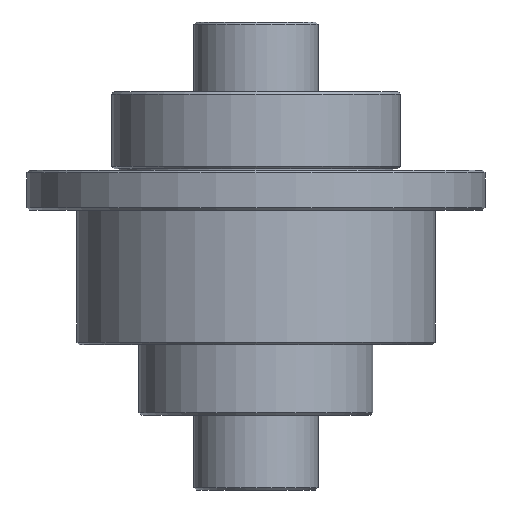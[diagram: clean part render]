
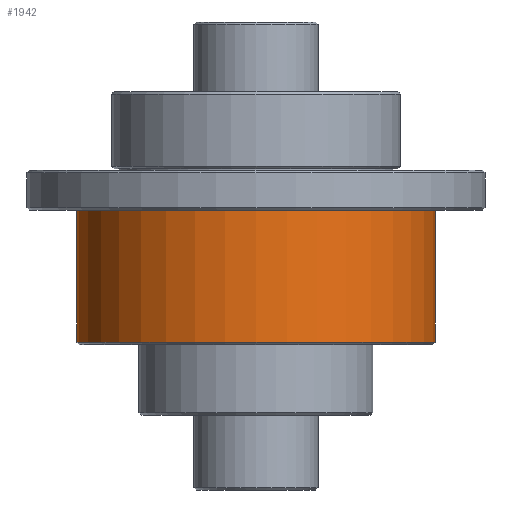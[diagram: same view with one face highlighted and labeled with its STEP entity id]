
A CAD part, front view. The second image highlights one B-rep face of the part: STEP entity #1942.
In plain terms, the highlighted cylindrical face has radius 36 mm (diameter 72 mm), a partial arc.
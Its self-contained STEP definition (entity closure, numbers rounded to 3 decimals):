
#134 = VERTEX_POINT ( 'NONE', #405 ) ;
#177 = VERTEX_POINT ( 'NONE', #1357 ) ;
#288 = DIRECTION ( 'NONE',  ( 0., 0., 1. ) ) ;
#298 = CARTESIAN_POINT ( 'NONE',  ( 0., 0., 5. ) ) ;
#311 = DIRECTION ( 'NONE',  ( 0., 0., 1. ) ) ;
#365 = EDGE_LOOP ( 'NONE', ( #2321, #815, #978, #920 ) ) ;
#405 = CARTESIAN_POINT ( 'NONE',  ( -36., 0., -22.8 ) ) ;
#656 = AXIS2_PLACEMENT_3D ( 'NONE', #298, #681, #1918 ) ;
#681 = DIRECTION ( 'NONE',  ( 0., 0., 1. ) ) ;
#684 = CARTESIAN_POINT ( 'NONE',  ( 0., 0., -49.3 ) ) ;
#688 = CARTESIAN_POINT ( 'NONE',  ( 36., 0., 5. ) ) ;
#815 = ORIENTED_EDGE ( 'NONE', *, *, #2254, .T. ) ;
#838 = DIRECTION ( 'NONE',  ( 1., 0., 0. ) ) ;
#920 = ORIENTED_EDGE ( 'NONE', *, *, #2269, .F. ) ;
#937 = CARTESIAN_POINT ( 'NONE',  ( 36., 0., -22.8 ) ) ;
#978 = ORIENTED_EDGE ( 'NONE', *, *, #1950, .T. ) ;
#1292 = CARTESIAN_POINT ( 'NONE',  ( -36., 0., -49.3 ) ) ;
#1318 = CARTESIAN_POINT ( 'NONE',  ( 0., 0., -22.8 ) ) ;
#1347 = CIRCLE ( 'NONE', #1873, 36. ) ;
#1357 = CARTESIAN_POINT ( 'NONE',  ( 36., 0., -49.3 ) ) ;
#1369 = CIRCLE ( 'NONE', #2283, 36. ) ;
#1465 = CARTESIAN_POINT ( 'NONE',  ( -36., 0., 5. ) ) ;
#1486 = DIRECTION ( 'NONE',  ( 0., 0., 1. ) ) ;
#1489 = DIRECTION ( 'NONE',  ( 1., 0., 0. ) ) ;
#1508 = VERTEX_POINT ( 'NONE', #1292 ) ;
#1694 = VERTEX_POINT ( 'NONE', #937 ) ;
#1776 = VECTOR ( 'NONE', #1486, 1000. ) ;
#1815 = LINE ( 'NONE', #688, #1776 ) ;
#1873 = AXIS2_PLACEMENT_3D ( 'NONE', #1318, #311, #1489 ) ;
#1897 = CYLINDRICAL_SURFACE ( 'NONE', #656, 36. ) ;
#1918 = DIRECTION ( 'NONE',  ( 1., 0., 0. ) ) ;
#1920 = EDGE_CURVE ( 'NONE', #1508, #134, #1977, .T. ) ;
#1927 = DIRECTION ( 'NONE',  ( 0., 0., 1. ) ) ;
#1942 = ADVANCED_FACE ( 'NONE', ( #2029 ), #1897, .T. ) ;
#1950 = EDGE_CURVE ( 'NONE', #177, #1694, #1815, .T. ) ;
#1977 = LINE ( 'NONE', #1465, #2001 ) ;
#2001 = VECTOR ( 'NONE', #288, 1000. ) ;
#2029 = FACE_OUTER_BOUND ( 'NONE', #365, .T. ) ;
#2254 = EDGE_CURVE ( 'NONE', #1508, #177, #1369, .T. ) ;
#2269 = EDGE_CURVE ( 'NONE', #134, #1694, #1347, .T. ) ;
#2283 = AXIS2_PLACEMENT_3D ( 'NONE', #684, #1927, #838 ) ;
#2321 = ORIENTED_EDGE ( 'NONE', *, *, #1920, .F. ) ;
